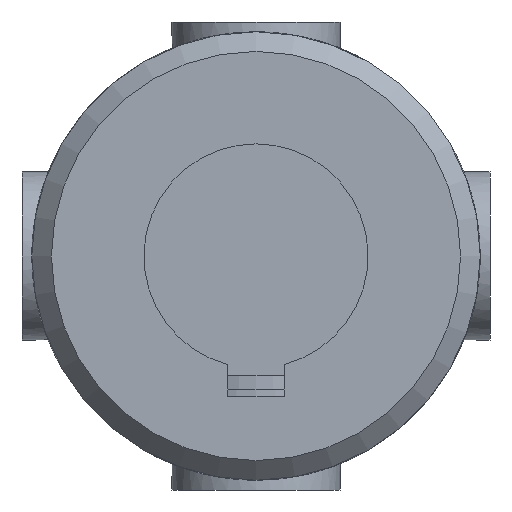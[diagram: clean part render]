
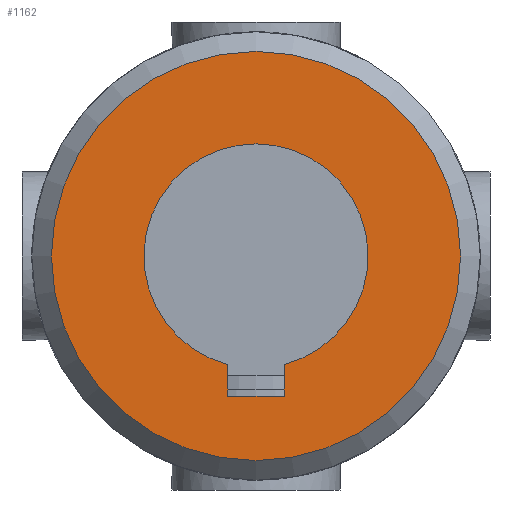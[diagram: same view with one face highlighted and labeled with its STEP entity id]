
A CAD part, front view. The second image highlights one B-rep face of the part: STEP entity #1162.
In plain terms, the highlighted planar face has unit normal (0, -1, 0).
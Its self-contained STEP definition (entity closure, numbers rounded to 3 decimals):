
#129=LINE('',#2083,#174);
#134=LINE('',#2100,#179);
#135=LINE('',#2109,#180);
#174=VECTOR('',#1516,1.127);
#179=VECTOR('',#1527,1.127);
#180=VECTOR('',#1530,2.);
#219=PLANE('',#1281);
#259=FACE_BOUND('',#420,.T.);
#317=FACE_OUTER_BOUND('',#419,.T.);
#419=EDGE_LOOP('',(#981));
#420=EDGE_LOOP('',(#982,#983,#984,#985));
#484=CIRCLE('',#1269,4.);
#489=CIRCLE('',#1279,7.3);
#572=VERTEX_POINT('',#2072);
#573=VERTEX_POINT('',#2074);
#575=VERTEX_POINT('',#2082);
#581=VERTEX_POINT('',#2098);
#583=VERTEX_POINT('',#2115);
#707=EDGE_CURVE('',#573,#572,#484,.T.);
#710=EDGE_CURVE('',#575,#573,#129,.T.);
#718=EDGE_CURVE('',#572,#581,#134,.T.);
#720=EDGE_CURVE('',#581,#575,#135,.T.);
#723=EDGE_CURVE('',#583,#583,#489,.T.);
#981=ORIENTED_EDGE('',*,*,#723,.F.);
#982=ORIENTED_EDGE('',*,*,#718,.T.);
#983=ORIENTED_EDGE('',*,*,#720,.T.);
#984=ORIENTED_EDGE('',*,*,#710,.T.);
#985=ORIENTED_EDGE('',*,*,#707,.T.);
#1162=ADVANCED_FACE('',(#317,#259),#219,.F.);
#1269=AXIS2_PLACEMENT_3D('',#2075,#1511,#1512);
#1279=AXIS2_PLACEMENT_3D('',#2116,#1539,#1540);
#1281=AXIS2_PLACEMENT_3D('',#2284,#1547,#1548);
#1511=DIRECTION('center_axis',(0.,1.,0.));
#1512=DIRECTION('ref_axis',(-0.25,0.,0.968));
#1516=DIRECTION('',(0.,0.,1.));
#1527=DIRECTION('',(0.,0.,-1.));
#1530=DIRECTION('',(-1.,0.,0.));
#1539=DIRECTION('center_axis',(0.,1.,0.));
#1540=DIRECTION('ref_axis',(1.,0.,0.));
#1547=DIRECTION('center_axis',(0.,1.,0.));
#1548=DIRECTION('ref_axis',(0.,0.,1.));
#2072=CARTESIAN_POINT('',(1.,-24.,-3.873));
#2074=CARTESIAN_POINT('',(-1.,-24.,-3.873));
#2075=CARTESIAN_POINT('Origin',(0.,-24.,0.));
#2082=CARTESIAN_POINT('',(-1.,-24.,-5.));
#2083=CARTESIAN_POINT('',(-1.,-24.,-2.5));
#2098=CARTESIAN_POINT('',(1.,-24.,-5.));
#2100=CARTESIAN_POINT('',(1.,-24.,-1.936));
#2109=CARTESIAN_POINT('',(0.5,-24.,-5.));
#2115=CARTESIAN_POINT('',(-7.3,-24.,0.));
#2116=CARTESIAN_POINT('Origin',(0.,-24.,0.));
#2284=CARTESIAN_POINT('Origin',(0.,-24.,0.));
